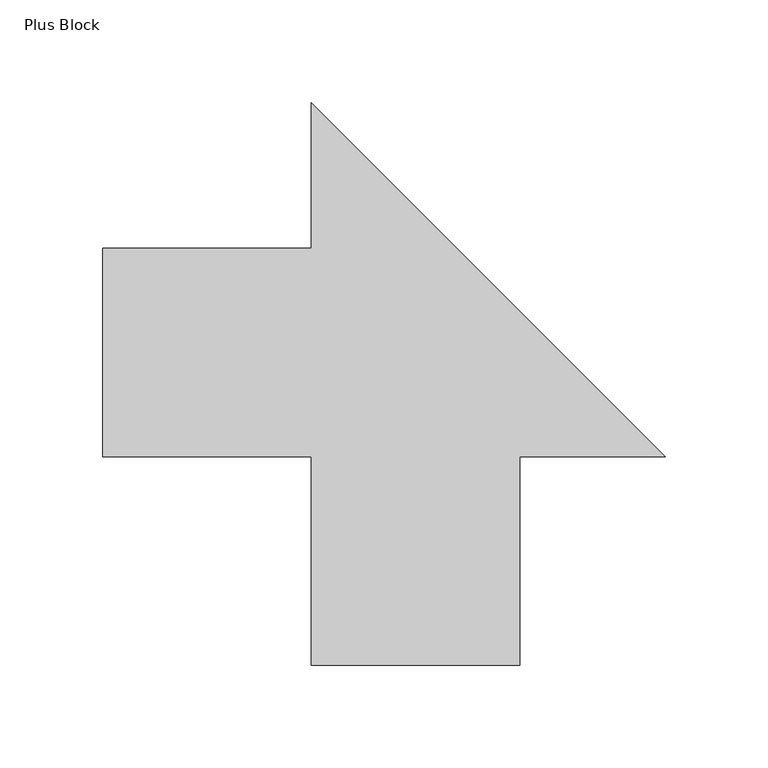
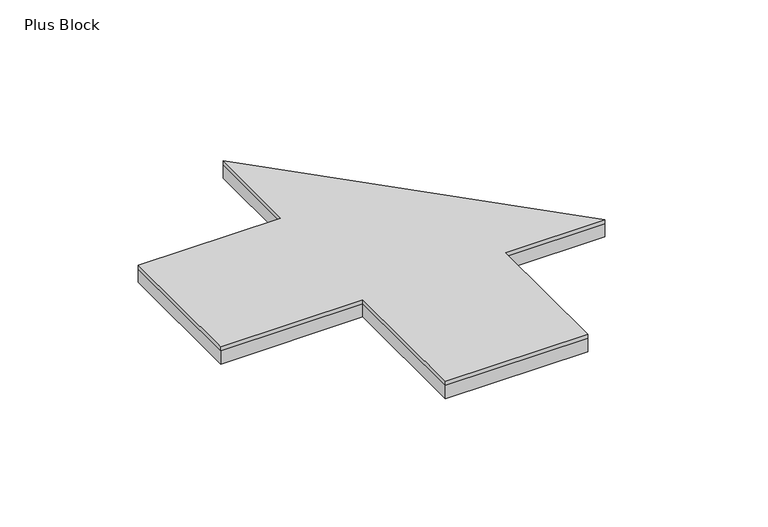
"""IFC4 building model written with IfcOpenShell, lengths in millimetres: proxy geometry, FilzFelt_Plus_Block : Plus Block."""

from ifc_helpers import new_model, si_unit, frame, origin, origin_with_axes, place, context, project, spatial, polyline, outline, extrude, source, transform, mapped, element, save


def plus_block_7d1ee7ed(model_context):
    return source(origin(), model_context, "Body", "SweptSolid", [
        extrude(outline(polyline([(50.8333333, -50.8333333), (50.8333333, -152.5), (-50.8333333, -152.5), (-50.8333333, -50.8333333), (-152.5, -50.8333333), (-152.5, 50.8333333), (-50.8333333, 50.8333333), (-50.8333333, 121.918666), (121.918666, -50.8333333), (50.8333333, -50.8333333)])), frame((0.0, 0.0, 10.0210937), z_axis=(0.0, 0.0, 1.0), x_axis=(1.0, 0.0, 0.0)), (0.0, 0.0, 1.0), 2.9765625),
        extrude(outline(polyline([(-152.5, -50.8333333), (-152.5, 50.8333333), (-50.8333333, 50.8333333), (-50.8333333, 121.918666), (121.918666, -50.8333333), (50.8333333, -50.8333333), (50.8333333, -152.5), (-50.8333333, -152.5), (-50.8333333, -50.8333333), (-152.5, -50.8333333)])), origin_with_axes(), (0.0, 0.0, 1.0), 10.0210938),
    ])


if __name__ == "__main__":
    model = new_model("IFC4")
    model_context = context("Model", 3, world=origin())
    ifc_project = project(units=[si_unit("LENGTHUNIT", "METRE", prefix="MILLI")], contexts=[model_context])
    site = spatial("IfcSite", under=ifc_project)
    building = spatial("IfcBuilding", under=site)
    placement = place(None, origin())
    plus_block_shape = plus_block_7d1ee7ed(model_context)
    element("IfcBuildingElementProxy", 1, Name="FilzFelt_Plus_Block : Plus Block", ObjectType="FilzFelt_Plus_Block : Plus Block", at=placement, inside=building, context=model_context, shape_type="MappedRepresentation", body=[
        mapped(plus_block_shape, transform((0.0, 0.0, 0.0), x_axis=(1.0, 0.0, 0.0), y_axis=(0.0, 1.0, 0.0), z_axis=(0.0, 0.0, 1.0))),
    ])
    save(model, "model.ifc")
